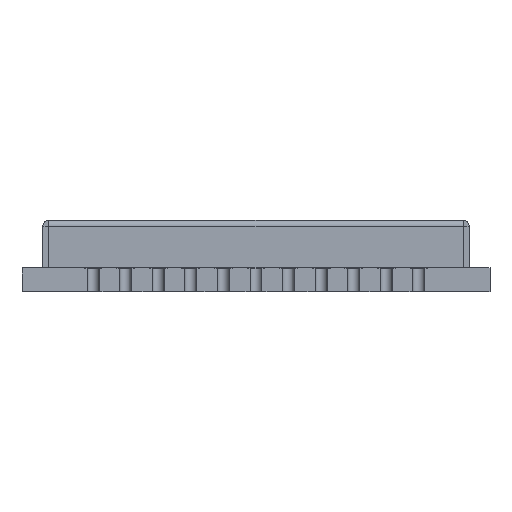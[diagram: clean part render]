
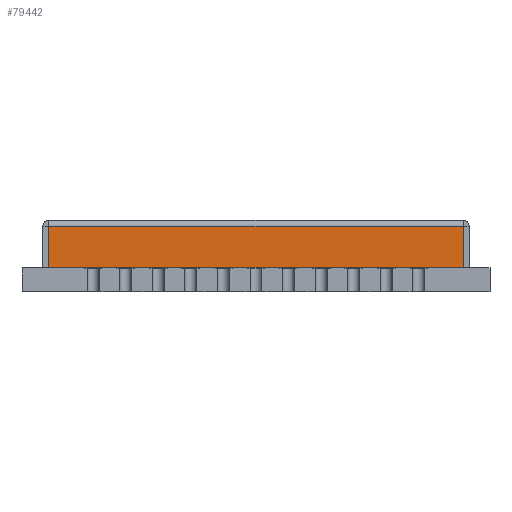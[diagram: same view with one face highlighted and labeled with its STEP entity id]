
A CAD part, front view. The second image highlights one B-rep face of the part: STEP entity #79442.
In plain terms, the highlighted planar face has unit normal (0, -1, 0).
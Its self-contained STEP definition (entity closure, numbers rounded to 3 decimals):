
#41884=DIRECTION('',(0.,0.,1.));
#41885=VECTOR('',#41884,1.4);
#41886=CARTESIAN_POINT('',(7.,-8.15,0.));
#41887=LINE('',#41886,#41885);
#41905=DIRECTION('',(0.,0.,1.));
#41906=VECTOR('',#41905,1.4);
#41907=CARTESIAN_POINT('',(-7.,-8.15,0.));
#41908=LINE('',#41907,#41906);
#41912=DIRECTION('',(1.,0.,0.));
#41913=VECTOR('',#41912,14.);
#41914=CARTESIAN_POINT('',(-7.,-8.15,0.));
#41915=LINE('',#41914,#41913);
#41969=DIRECTION('',(1.,0.,0.));
#41970=VECTOR('',#41969,14.);
#41971=CARTESIAN_POINT('',(-7.,-8.15,1.4));
#41972=LINE('',#41971,#41970);
#67647=CARTESIAN_POINT('',(-7.,-8.15,0.));
#67648=CARTESIAN_POINT('',(-7.,-8.15,1.4));
#67649=VERTEX_POINT('',#67647);
#67650=VERTEX_POINT('',#67648);
#67651=CARTESIAN_POINT('',(7.,-8.15,0.));
#67652=CARTESIAN_POINT('',(7.,-8.15,1.4));
#67653=VERTEX_POINT('',#67651);
#67654=VERTEX_POINT('',#67652);
#79428=CARTESIAN_POINT('',(-7.2,-8.15,0.));
#79429=DIRECTION('',(0.,-1.,0.));
#79430=DIRECTION('',(1.,0.,0.));
#79431=AXIS2_PLACEMENT_3D('',#79428,#79429,#79430);
#79432=PLANE('',#79431);
#79434=ORIENTED_EDGE('',*,*,#79433,.F.);
#79436=ORIENTED_EDGE('',*,*,#79435,.T.);
#79438=ORIENTED_EDGE('',*,*,#79437,.T.);
#79439=ORIENTED_EDGE('',*,*,#79418,.F.);
#79440=EDGE_LOOP('',(#79434,#79436,#79438,#79439));
#79441=FACE_OUTER_BOUND('',#79440,.F.);
#79418=EDGE_CURVE('',#67653,#67654,#41887,.T.);
#79433=EDGE_CURVE('',#67649,#67653,#41915,.T.);
#79435=EDGE_CURVE('',#67649,#67650,#41908,.T.);
#79437=EDGE_CURVE('',#67650,#67654,#41972,.T.);
#79442=ADVANCED_FACE('',(#79441),#79432,.T.);
